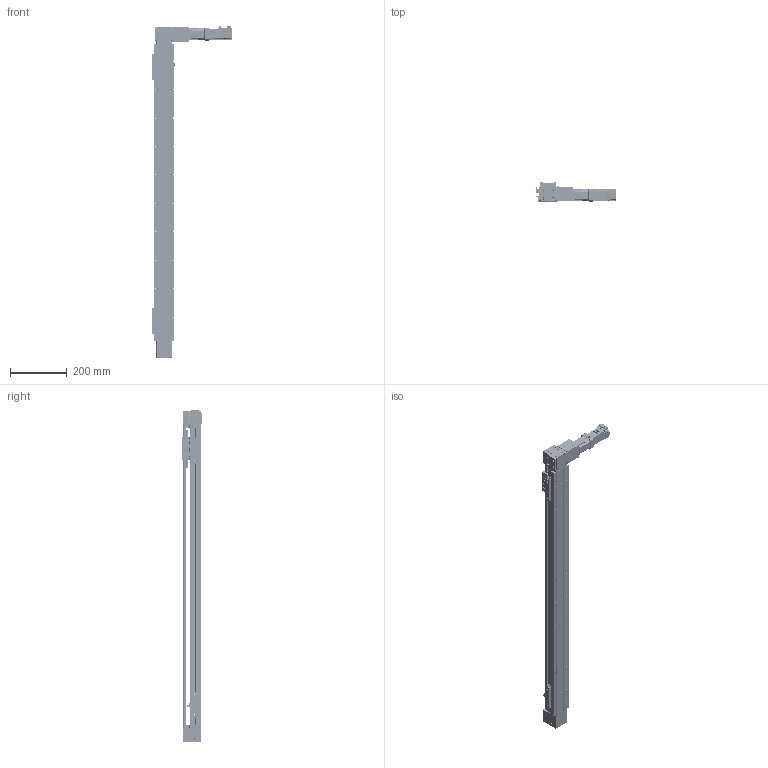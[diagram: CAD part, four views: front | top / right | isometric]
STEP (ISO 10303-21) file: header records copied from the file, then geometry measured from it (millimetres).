
FILE_DESCRIPTION(/* description */ (''),/* implementation_level */ '2;1');
FILE_NAME(/* name */ '\\192.168.0.160\disk1\HAN SHIN Master\B-설계부문\C-표준\B-2024년\BC02-표준도면\+로봇 개선표준도면\홈페이지 표준 도면\홈페이지 최종 작업 폴더\3D\HB\HSB55\HB55-SR1G-N-0900-L.stp',/* time_stamp */ '2025-06-03T10:03:30+09:00',/* author */ ('user'),/* organization */ (''),/* preprocessor_version */ 'ST-DEVELOPER v18.1',/* originating_system */ 'Autodesk Inventor 2022',/* authorisation */ '');
FILE_SCHEMA (('AUTOMOTIVE_DESIGN { 1 0 10303 214 3 1 1 }'));
Products named in the file (38): HSB55-SR1G-N-0500-L; HSB55 BASE; HSB55 TABLE; UPCOVER; HSB55 HOUSING (Connecting); HSB55 FRONT HOUSIONG; HSB55 REAR SHAFT-1; HSB55 REAR SHAFT; HSB55 DOWN CLAMP; M4-25(렌치볼트); HSB55 HOUSING-R1; HSB55 TENSION PLATE; ISO 4032 - M4; HSB55 UP CLAMP; M4-12(렌치볼트); HR45 STOPPER; HSB55 ACRYL COVER-R1; HSB55 ACRYL COVER; HSB160 BEARING OVER; PGX44-H-1_3; HSB55 MOTOR BKT 02; COUPLING COVER; HSB55 MOTOR BKT 01; SDWA-31C; HSB55 END COVER; HSB160 SHAFT-1; EC-6202ZZ; EC-6202ZZ Inner ring; EC-6202ZZ Outer ring; EC-6202ZZ St; EC-6202ZZ Ball; EC-6202ZZ B1; HR45 SENSOR DOG; hsr_ftht_A-M6F_grease_nipple_joint; NIPPLE CAP(신규); HR45 SENSOR RAIL; EE_SX674A; hg-kr13_
Assembly tree (60 placements, depth 3):
  HSB55-SR1G-N-0500-L
    HSB55 BASE
    HSB55 TABLE
    UPCOVER
    HSB55 FRONT HOUSIONG  x2
    HSB55 HOUSING (Connecting)
    HSB55 REAR SHAFT-1
    #109326  x2
    HSB55 REAR SHAFT
    HSB55 DOWN CLAMP  x2
    HSB55 UP CLAMP  x2
    M4-25(렌치볼트)
    ISO 4032 - M4  x2
    HSB55 HOUSING-R1
    HSB55 TENSION PLATE  x2
    M4-12(렌치볼트)
    HR45 STOPPER  x2
    HSB55 ACRYL COVER  x4
    HSB55 ACRYL COVER-R1
    HSB160 BEARING OVER
    PGX44-H-1_3
    HSB55 MOTOR BKT 02
    COUPLING COVER
    HSB55 MOTOR BKT 01
    SDWA-31C
    HSB55 END COVER
    HSB160 SHAFT-1
    EC-6202ZZ  x2
      EC-6202ZZ Inner ring
      EC-6202ZZ Outer ring
      EC-6202ZZ B1
      EC-6202ZZ St
      EC-6202ZZ Ball
    HR45 SENSOR DOG
    EE_SX674A  x3
    HR45 SENSOR RAIL  x2
    hsr_ftht_A-M6F_grease_nipple_joint
    NIPPLE CAP(신규)
    hg-kr13_
Bounding box: 284.4 x 69.2 x 1167.8 mm (x, y, z)
Volume: 2032247.4 mm3; surface area: 856044.1 mm2
Topology: 86 solids, 118 shells, 4556 faces, 12180 edges, 7916 vertices
Faces by surface type: plane 2790, cylinder 1269, cone 350, torus 103, bspline 22, sphere 22
Full cylindrical faces by diameter (mm): 1 x2, 2 x3, 2.013 x4, 2.459 x70, 2.5 x25, 3 x37, 3.1 x2, 3.242 x74, 3.3 x13, 3.5 x79, 4 x18, 4.134 x20, 4.2 x4, 4.5 x40, 4.917 x2, 5 x29, 5.5 x11, 5.6 x3, 5.9 x4, 6 x48, 6.45 x10, 6.5 x4, 7 x6, 7.5 x4, 8 x17, 8.2 x1, 9 x2, 9.5 x2, 10 x1, 11.5 x2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
Entity records: 109272 total; most frequent: CARTESIAN_POINT 22931, DIRECTION 18117, ORIENTED_EDGE 17308, EDGE_CURVE 8654, AXIS2_PLACEMENT_3D 6551, VERTEX_POINT 5650, LINE 5015, VECTOR 5015
